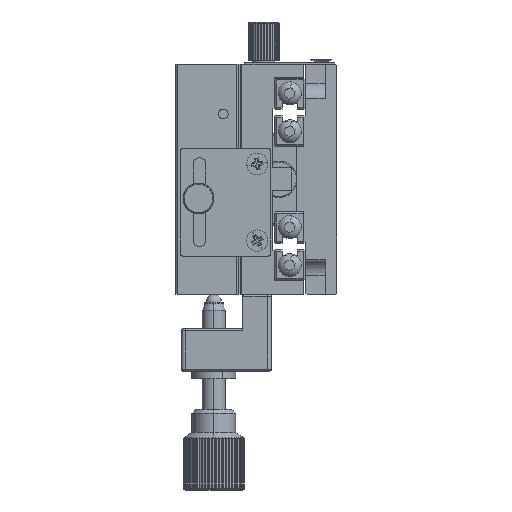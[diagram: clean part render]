
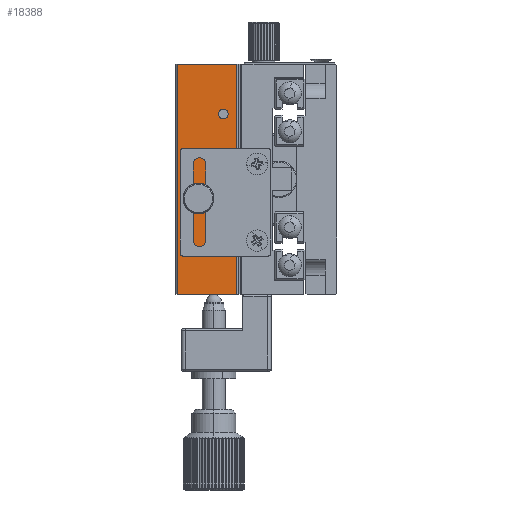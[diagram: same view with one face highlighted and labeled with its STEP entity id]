
A CAD part, left-side view. The second image highlights one B-rep face of the part: STEP entity #18388.
In plain terms, the highlighted planar face has unit normal (-1, 0, 0) as drawn and (1, 0, 0) by its records, which use the part's own axes.
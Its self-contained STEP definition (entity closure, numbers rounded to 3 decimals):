
#3 = DIRECTION ( 'NONE',  ( 1., 0., 0. ) ) ;
#8 = CARTESIAN_POINT ( 'NONE',  ( 211.51, 468.163, 28.75 ) ) ;
#11 = CARTESIAN_POINT ( 'NONE',  ( 211.51, 468.163, 30. ) ) ;
#17 = DIRECTION ( 'NONE',  ( 0., 0., -1. ) ) ;
#22 = DIRECTION ( 'NONE',  ( 1., 0., 0. ) ) ;
#75 = CARTESIAN_POINT ( 'NONE',  ( 211.51, 474.663, 36.25 ) ) ;
#82 = CARTESIAN_POINT ( 'NONE',  ( 211.51, 474.663, 33.75 ) ) ;
#87 = CARTESIAN_POINT ( 'NONE',  ( 211.51, 468.163, 48.25 ) ) ;
#90 = CARTESIAN_POINT ( 'NONE',  ( 211.51, 468.163, 45.75 ) ) ;
#108 = CARTESIAN_POINT ( 'NONE',  ( 211.51, 468.163, 31.25 ) ) ;
#109 = CARTESIAN_POINT ( 'NONE',  ( 211.51, 468.163, 14.25 ) ) ;
#166 = CARTESIAN_POINT ( 'NONE',  ( 211.51, 468.163, 11.75 ) ) ;
#682 = EDGE_CURVE ( 'NONE', #5223, #5238, #11978, .T. ) ;
#687 = EDGE_CURVE ( 'NONE', #5238, #5193, #9399, .T. ) ;
#688 = EDGE_CURVE ( 'NONE', #5223, #5177, #9352, .T. ) ;
#690 = EDGE_CURVE ( 'NONE', #5063, #5062, #9373, .T. ) ;
#697 = EDGE_CURVE ( 'NONE', #5133, #5128, #9401, .T. ) ;
#1183 = ORIENTED_EDGE ( 'NONE', *, *, #682, .F. ) ;
#1199 = ORIENTED_EDGE ( 'NONE', *, *, #20200, .F. ) ;
#1206 = ORIENTED_EDGE ( 'NONE', *, *, #20136, .F. ) ;
#1208 = ORIENTED_EDGE ( 'NONE', *, *, #688, .T. ) ;
#1216 = ORIENTED_EDGE ( 'NONE', *, *, #29192, .F. ) ;
#1218 = ORIENTED_EDGE ( 'NONE', *, *, #20201, .F. ) ;
#1223 = ORIENTED_EDGE ( 'NONE', *, *, #687, .F. ) ;
#1229 = ORIENTED_EDGE ( 'NONE', *, *, #20178, .F. ) ;
#1240 = ORIENTED_EDGE ( 'NONE', *, *, #29189, .F. ) ;
#2057 = EDGE_LOOP ( 'NONE', ( #9967, #1229 ) ) ;
#2064 = EDGE_LOOP ( 'NONE', ( #1240, #1206 ) ) ;
#2065 = EDGE_LOOP ( 'NONE', ( #9974, #1199 ) ) ;
#2069 = EDGE_LOOP ( 'NONE', ( #1216, #1218 ) ) ;
#4810 = EDGE_LOOP ( 'NONE', ( #1223, #1183, #1208, #9944 ) ) ;
#5039 = VERTEX_POINT ( 'NONE', #90 ) ;
#5041 = VERTEX_POINT ( 'NONE', #82 ) ;
#5047 = VERTEX_POINT ( 'NONE', #75 ) ;
#5056 = VERTEX_POINT ( 'NONE', #87 ) ;
#5062 = VERTEX_POINT ( 'NONE', #109 ) ;
#5063 = VERTEX_POINT ( 'NONE', #166 ) ;
#5128 = VERTEX_POINT ( 'NONE', #108 ) ;
#5133 = VERTEX_POINT ( 'NONE', #8 ) ;
#5177 = VERTEX_POINT ( 'NONE', #19315 ) ;
#5193 = VERTEX_POINT ( 'NONE', #19234 ) ;
#5223 = VERTEX_POINT ( 'NONE', #19383 ) ;
#5238 = VERTEX_POINT ( 'NONE', #19416 ) ;
#9344 = VECTOR ( 'NONE', #24621, 1000. ) ;
#9352 = LINE ( 'NONE', #24671, #9344 ) ;
#9353 = VECTOR ( 'NONE', #24901, 1000. ) ;
#9373 = CIRCLE ( 'NONE', #18996, 1.25 ) ;
#9399 = LINE ( 'NONE', #24779, #9353 ) ;
#9401 = CIRCLE ( 'NONE', #19047, 1.25 ) ;
#9944 = ORIENTED_EDGE ( 'NONE', *, *, #29176, .T. ) ;
#9967 = ORIENTED_EDGE ( 'NONE', *, *, #697, .F. ) ;
#9974 = ORIENTED_EDGE ( 'NONE', *, *, #690, .F. ) ;
#11978 = LINE ( 'NONE', #24567, #11991 ) ;
#11991 = VECTOR ( 'NONE', #24954, 1000. ) ;
#14387 = AXIS2_PLACEMENT_3D ( 'NONE', #17537, #17541, #17525 ) ;
#14403 = AXIS2_PLACEMENT_3D ( 'NONE', #17617, #17610, #17599 ) ;
#14404 = AXIS2_PLACEMENT_3D ( 'NONE', #17627, #17598, #17619 ) ;
#14428 = AXIS2_PLACEMENT_3D ( 'NONE', #17468, #17441, #17458 ) ;
#14744 = AXIS2_PLACEMENT_3D ( 'NONE', #21867, #29385, #29605 ) ;
#14781 = AXIS2_PLACEMENT_3D ( 'NONE', #23486, #23438, #23464 ) ;
#15410 = AXIS2_PLACEMENT_3D ( 'NONE', #26719, #26733, #26750 ) ;
#15697 = CIRCLE ( 'NONE', #14428, 1.25 ) ;
#15781 = CIRCLE ( 'NONE', #14387, 1.25 ) ;
#15802 = CIRCLE ( 'NONE', #14403, 1.25 ) ;
#15823 = CIRCLE ( 'NONE', #14404, 1.25 ) ;
#17441 = DIRECTION ( 'NONE',  ( 1., 0., 0. ) ) ;
#17458 = DIRECTION ( 'NONE',  ( 0., 0., -1. ) ) ;
#17468 = CARTESIAN_POINT ( 'NONE',  ( 211.51, 474.663, 35. ) ) ;
#17525 = DIRECTION ( 'NONE',  ( 0., 0., -1. ) ) ;
#17537 = CARTESIAN_POINT ( 'NONE',  ( 211.51, 468.163, 30. ) ) ;
#17541 = DIRECTION ( 'NONE',  ( 1., 0., 0. ) ) ;
#17598 = DIRECTION ( 'NONE',  ( 1., 0., 0. ) ) ;
#17599 = DIRECTION ( 'NONE',  ( 0., 0., -1. ) ) ;
#17610 = DIRECTION ( 'NONE',  ( 1., 0., 0. ) ) ;
#17617 = CARTESIAN_POINT ( 'NONE',  ( 211.51, 468.163, 13. ) ) ;
#17619 = DIRECTION ( 'NONE',  ( 0., 0., -1. ) ) ;
#17627 = CARTESIAN_POINT ( 'NONE',  ( 211.51, 468.163, 47. ) ) ;
#18388 = ADVANCED_FACE ( 'NONE', ( #28245, #28314, #28258, #28312, #28288 ), #26746, .T. ) ;
#18996 = AXIS2_PLACEMENT_3D ( 'NONE', #24496, #3, #24452 ) ;
#19047 = AXIS2_PLACEMENT_3D ( 'NONE', #11, #22, #17 ) ;
#19234 = CARTESIAN_POINT ( 'NONE',  ( 211.51, 464.663, 0. ) ) ;
#19315 = CARTESIAN_POINT ( 'NONE',  ( 211.51, 464.663, 60. ) ) ;
#19383 = CARTESIAN_POINT ( 'NONE',  ( 211.51, 480.163, 60. ) ) ;
#19416 = CARTESIAN_POINT ( 'NONE',  ( 211.51, 480.163, 0. ) ) ;
#20136 = EDGE_CURVE ( 'NONE', #5047, #5041, #15697, .T. ) ;
#20178 = EDGE_CURVE ( 'NONE', #5128, #5133, #15781, .T. ) ;
#20200 = EDGE_CURVE ( 'NONE', #5062, #5063, #15802, .T. ) ;
#20201 = EDGE_CURVE ( 'NONE', #5056, #5039, #15823, .T. ) ;
#21867 = CARTESIAN_POINT ( 'NONE',  ( 211.51, 474.663, 35. ) ) ;
#22006 = CARTESIAN_POINT ( 'NONE',  ( 211.51, 464.663, 60. ) ) ;
#22013 = DIRECTION ( 'NONE',  ( 0., 0., -1. ) ) ;
#23438 = DIRECTION ( 'NONE',  ( 1., 0., 0. ) ) ;
#23464 = DIRECTION ( 'NONE',  ( 0., 0., -1. ) ) ;
#23486 = CARTESIAN_POINT ( 'NONE',  ( 211.51, 468.163, 47. ) ) ;
#24452 = DIRECTION ( 'NONE',  ( 0., 0., -1. ) ) ;
#24496 = CARTESIAN_POINT ( 'NONE',  ( 211.51, 468.163, 13. ) ) ;
#24567 = CARTESIAN_POINT ( 'NONE',  ( 211.51, 480.163, 60. ) ) ;
#24621 = DIRECTION ( 'NONE',  ( 0., -1., 0. ) ) ;
#24671 = CARTESIAN_POINT ( 'NONE',  ( 211.51, 0., 60. ) ) ;
#24779 = CARTESIAN_POINT ( 'NONE',  ( 211.51, 0., 0. ) ) ;
#24901 = DIRECTION ( 'NONE',  ( 0., -1., 0. ) ) ;
#24954 = DIRECTION ( 'NONE',  ( 0., 0., -1. ) ) ;
#26719 = CARTESIAN_POINT ( 'NONE',  ( 211.51, 0., 60. ) ) ;
#26733 = DIRECTION ( 'NONE',  ( 1., 0., 0. ) ) ;
#26746 = PLANE ( 'NONE',  #15410 ) ;
#26750 = DIRECTION ( 'NONE',  ( 0., 0., -1. ) ) ;
#28245 = FACE_BOUND ( 'NONE', #2064, .T. ) ;
#28258 = FACE_BOUND ( 'NONE', #2057, .T. ) ;
#28288 = FACE_OUTER_BOUND ( 'NONE', #4810, .T. ) ;
#28312 = FACE_BOUND ( 'NONE', #2065, .T. ) ;
#28314 = FACE_BOUND ( 'NONE', #2069, .T. ) ;
#29176 = EDGE_CURVE ( 'NONE', #5177, #5193, #31175, .T. ) ;
#29189 = EDGE_CURVE ( 'NONE', #5041, #5047, #31141, .T. ) ;
#29192 = EDGE_CURVE ( 'NONE', #5039, #5056, #31159, .T. ) ;
#29385 = DIRECTION ( 'NONE',  ( 1., 0., 0. ) ) ;
#29605 = DIRECTION ( 'NONE',  ( 0., 0., -1. ) ) ;
#31141 = CIRCLE ( 'NONE', #14744, 1.25 ) ;
#31159 = CIRCLE ( 'NONE', #14781, 1.25 ) ;
#31175 = LINE ( 'NONE', #22006, #31187 ) ;
#31187 = VECTOR ( 'NONE', #22013, 1000. ) ;
